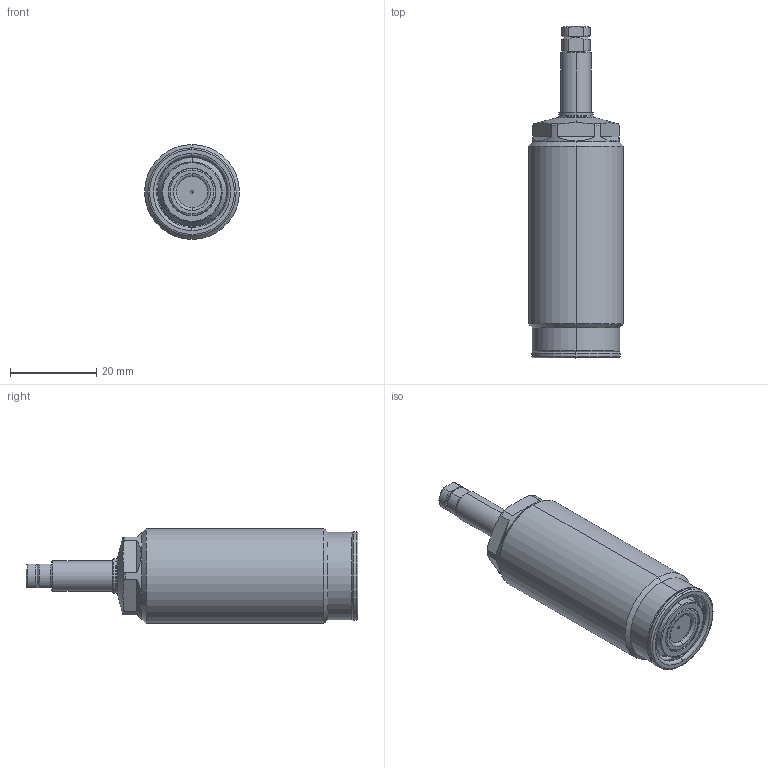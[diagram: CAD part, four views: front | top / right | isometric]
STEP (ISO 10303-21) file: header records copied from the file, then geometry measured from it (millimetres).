
FILE_DESCRIPTION(/* description */ (''),/* implementation_level */ '2;1');
FILE_NAME(/* name */ 'TSS22-Q.stp',/* time_stamp */ '2024-01-24T13:34:24+08:00',/* author */ (''),/* organization */ (''),/* preprocessor_version */ 'ST-DEVELOPER v16.7',/* originating_system */ 'SIEMENS PLM Software NX 12.0',/* authorisation */ '');
FILE_SCHEMA (('AP203_CONFIGURATION_CONTROLLED_3D_DESIGN_OF_MECHANICAL_PARTS_AND_ASSEMBLIES_MIM_LF { 1 0 10303 403 2 1 2}'));
Length unit declared in the file: millimetre
Products named in the file (7): XLD-M4_Oring; XLD-M4_contactbolt; TSS22-Q-04; TSS22-Q-02; TSS22-Q-01; TSS22-Q-03; LD0223-EQ_step
Assembly tree (6 placements, depth 3):
  LD0223-EQ_step
    TSS22-Q-01
    TSS22-Q-02
    TSS22-Q-03
      XLD-M4_contactbolt
      XLD-M4_Oring
    TSS22-Q-04
Bounding box: 22 x 77 x 22 mm (x, y, z)
Volume: 19969.2 mm3; surface area: 6213.3 mm2
Topology: 5 solids, 5 shells, 169 faces, 370 edges, 218 vertices
Faces by surface type: torus 60, cylinder 40, plane 35, cone 32, sphere 2
Entity records: 5744 total; most frequent: CARTESIAN_POINT 1170, DIRECTION 902, ORIENTED_EDGE 736, AXIS2_PLACEMENT_3D 402, EDGE_CURVE 368, CIRCLE 226, VERTEX_POINT 218, EDGE_LOOP 182
